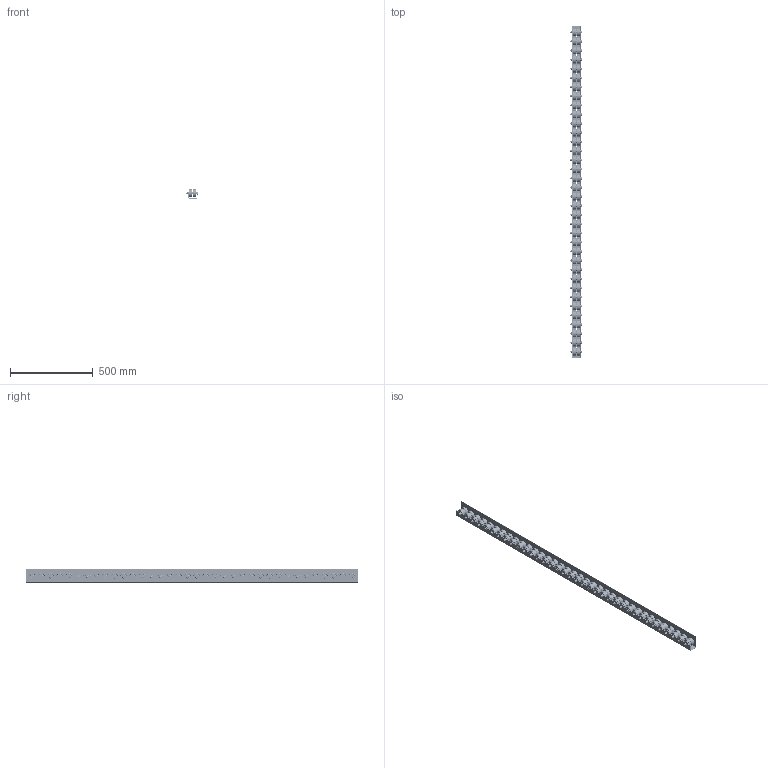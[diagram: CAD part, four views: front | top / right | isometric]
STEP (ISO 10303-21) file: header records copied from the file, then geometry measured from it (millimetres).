
FILE_DESCRIPTION( ( 'Unknown' ), '1' );
FILE_NAME( 'D:/Construktor/Listwy rolkowe 2015/Listwa T640L/Listwa T640L.stp', 'Unknown', ( 'Unknown' ), ( 'Unknown' ), 'PSStep 17.0.49', 'Unknown', ' ' );
FILE_SCHEMA( ( 'AUTOMOTIVE_DESIGN { 1 0 10303 214 1 1 1 1 }' ) );
Length unit declared in the file: millimetre
Products named in the file (11): Assem1; DIN_931_M8x35; DIN_931_M8x35-oa0; DIN_931_M8x35-oa1; Nut_DIN_980_M_M8_v10.50; 620 rolka; 620 rolka-oa2; 620 rolka-oa3; 620 rolka-oa4; 620 rolka-oa5; Ceownik T660L
Assembly tree (145 placements, depth 2):
  Assem1
    DIN_931_M8x35  x34
    DIN_931_M8x35-oa0
    DIN_931_M8x35-oa1
    Nut_DIN_980_M_M8_v10.50  x36
    620 rolka  x68
    620 rolka-oa2
    620 rolka-oa3
    620 rolka-oa4
    620 rolka-oa5
    Ceownik T660L
Bounding box: 70.3 x 2000 x 80 mm (x, y, z)
Volume: 2088574 mm3; surface area: 1437313.5 mm2
Topology: 145 solids, 145 shells, 3740 faces, 7560 edges, 4758 vertices
Faces by surface type: plane 1378, cylinder 958, torus 864, cone 540
Full cylindrical faces by diameter (mm): 6.466 x36, 6.647 x36, 6.697 x36, 8 x72, 8.2 x90, 8.3 x72, 8.4 x36, 11.63 x36, 12.5 x36, 12.6 x144, 29.5 x144, 43.6 x144, 48 x72
Entity records: 12622 total; most frequent: CARTESIAN_POINT 1809, DIRECTION 1792, ORIENTED_EDGE 1028, AXIS2_PLACEMENT_3D 861, EDGE_LOOP 774, FACE_OUTER_BOUND 533, EDGE_CURVE 514, VERTEX_POINT 454
